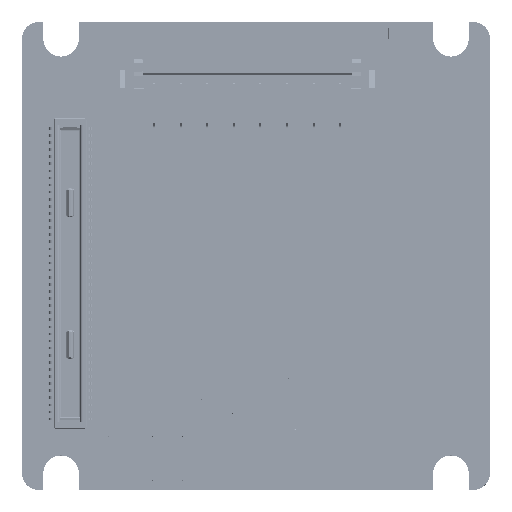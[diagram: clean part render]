
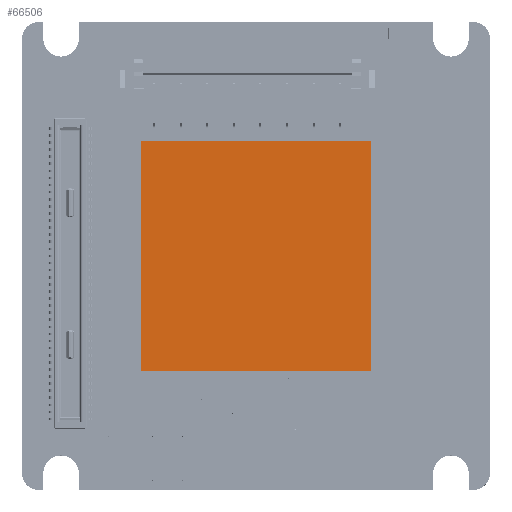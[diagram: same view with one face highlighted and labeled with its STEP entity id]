
A CAD part, top view. The second image highlights one B-rep face of the part: STEP entity #66506.
In plain terms, the highlighted planar face has unit normal (0, 0, 1).
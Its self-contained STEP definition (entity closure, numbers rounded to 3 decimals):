
#13348 = EDGE_CURVE ( 'NONE', #154796, #152629, #16441, .T. ) ;
#16441 = LINE ( 'NONE', #436970, #439755 ) ;
#66057 = VECTOR ( 'NONE', #548518, 1000. ) ;
#66506 = ADVANCED_FACE ( 'NONE', ( #375463 ), #271193, .F. ) ;
#117312 = DIRECTION ( 'NONE',  ( 0., -1., 0. ) ) ;
#128348 = LINE ( 'NONE', #552094, #314705 ) ;
#142073 = EDGE_CURVE ( 'NONE', #152629, #511426, #482431, .T. ) ;
#144527 = ORIENTED_EDGE ( 'NONE', *, *, #341647, .F. ) ;
#152629 = VERTEX_POINT ( 'NONE', #660804 ) ;
#154796 = VERTEX_POINT ( 'NONE', #487879 ) ;
#236605 = EDGE_LOOP ( 'NONE', ( #249217, #608260, #374684, #144527 ) ) ;
#249217 = ORIENTED_EDGE ( 'NONE', *, *, #142073, .F. ) ;
#271193 = PLANE ( 'NONE',  #379137 ) ;
#277700 = CARTESIAN_POINT ( 'NONE',  ( -6.5, 6.5, 6.162 ) ) ;
#288112 = DIRECTION ( 'NONE',  ( 0., 1., 0. ) ) ;
#314705 = VECTOR ( 'NONE', #288112, 1000. ) ;
#329382 = CARTESIAN_POINT ( 'NONE',  ( 6.5, -6.5, 6.162 ) ) ;
#341647 = EDGE_CURVE ( 'NONE', #511426, #402928, #128348, .T. ) ;
#374684 = ORIENTED_EDGE ( 'NONE', *, *, #683114, .F. ) ;
#375463 = FACE_OUTER_BOUND ( 'NONE', #236605, .T. ) ;
#379137 = AXIS2_PLACEMENT_3D ( 'NONE', #538598, #430937, #489937 ) ;
#384982 = DIRECTION ( 'NONE',  ( -1., 0., 0. ) ) ;
#402928 = VERTEX_POINT ( 'NONE', #685759 ) ;
#430937 = DIRECTION ( 'NONE',  ( 0., 0., -1. ) ) ;
#436970 = CARTESIAN_POINT ( 'NONE',  ( 6.5, 6.5, 6.162 ) ) ;
#439755 = VECTOR ( 'NONE', #117312, 1000. ) ;
#482431 = LINE ( 'NONE', #329382, #517175 ) ;
#483503 = CARTESIAN_POINT ( 'NONE',  ( -6.5, -6.5, 6.162 ) ) ;
#487879 = CARTESIAN_POINT ( 'NONE',  ( 6.5, 6.5, 6.162 ) ) ;
#489937 = DIRECTION ( 'NONE',  ( 0., -1., 0. ) ) ;
#511426 = VERTEX_POINT ( 'NONE', #483503 ) ;
#517175 = VECTOR ( 'NONE', #384982, 1000. ) ;
#538598 = CARTESIAN_POINT ( 'NONE',  ( 0., 0., 6.162 ) ) ;
#541692 = LINE ( 'NONE', #277700, #66057 ) ;
#548518 = DIRECTION ( 'NONE',  ( 1., 0., 0. ) ) ;
#552094 = CARTESIAN_POINT ( 'NONE',  ( -6.5, -6.5, 6.162 ) ) ;
#608260 = ORIENTED_EDGE ( 'NONE', *, *, #13348, .F. ) ;
#660804 = CARTESIAN_POINT ( 'NONE',  ( 6.5, -6.5, 6.162 ) ) ;
#683114 = EDGE_CURVE ( 'NONE', #402928, #154796, #541692, .T. ) ;
#685759 = CARTESIAN_POINT ( 'NONE',  ( -6.5, 6.5, 6.162 ) ) ;
